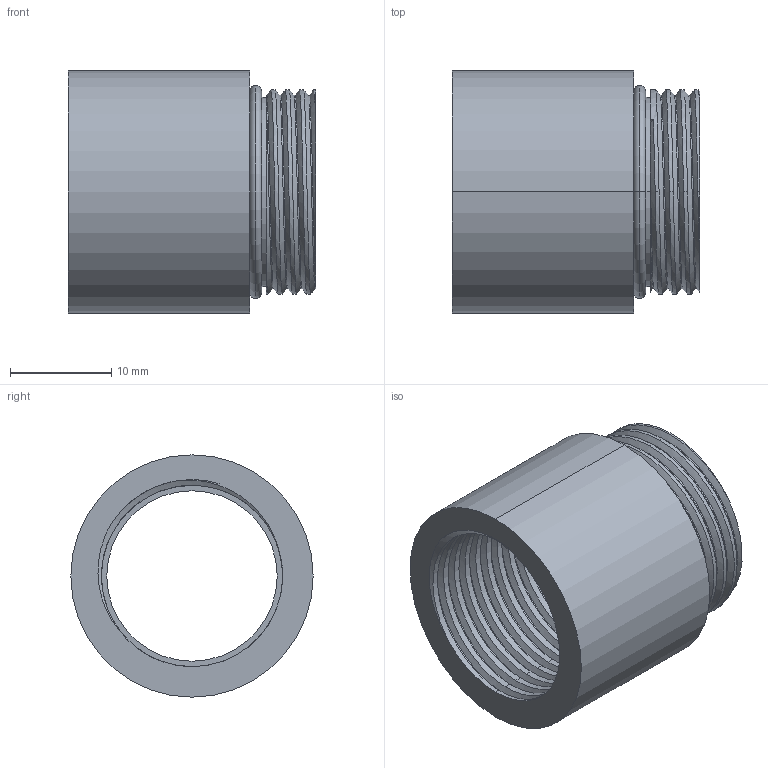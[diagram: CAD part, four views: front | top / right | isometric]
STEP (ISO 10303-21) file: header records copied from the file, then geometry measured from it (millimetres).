
FILE_DESCRIPTION (( 'STEP AP214' ), '1' );
FILE_NAME ('PG13.5-12.STEP', '2006-03-08T16:06:07', ( 'Bruce Mistarz' ), ( 'Mencom Corp' ), 'SwSTEP 2.0', 'SolidWorks 2005313', '' );
FILE_SCHEMA (( 'AUTOMOTIVE_DESIGN' ));
Length unit declared in the file: inch
Products named in the file (1): PG13.5-12
Bounding box: 24.55 x 23.99 x 23.99 mm (x, y, z)
Volume: 4024.3 mm3; surface area: 4395.2 mm2
Topology: 2 solids, 2 shells, 59 faces, 155 edges, 102 vertices
Faces by surface type: cylinder 38, plane 8, bspline 7, torus 6
Entity records: 5848 total; most frequent: CARTESIAN_POINT 4503, ORIENTED_EDGE 310, DIRECTION 219, EDGE_CURVE 155, VERTEX_POINT 102, AXIS2_PLACEMENT_3D 88, EDGE_LOOP 65, ADVANCED_FACE 59
